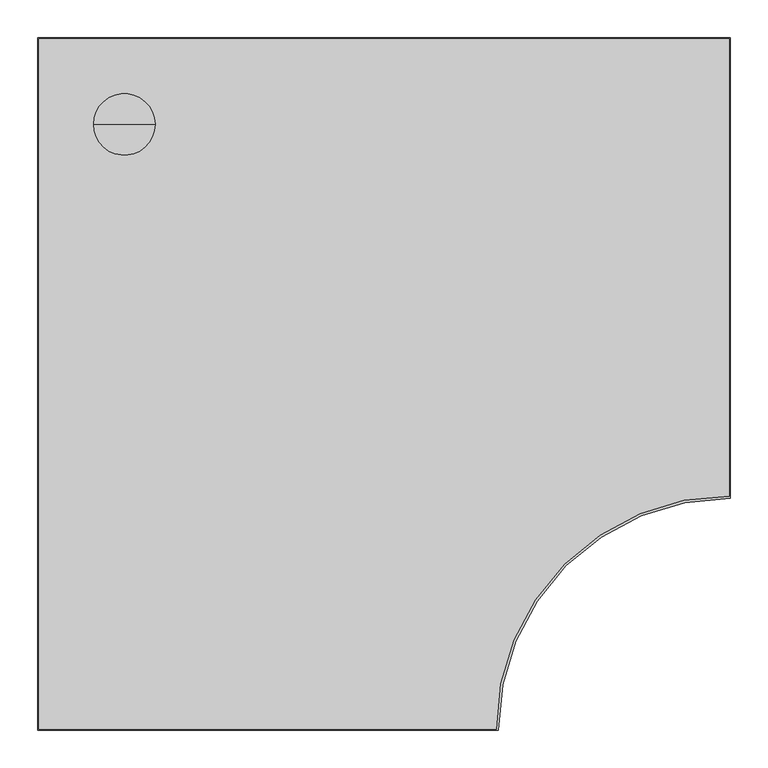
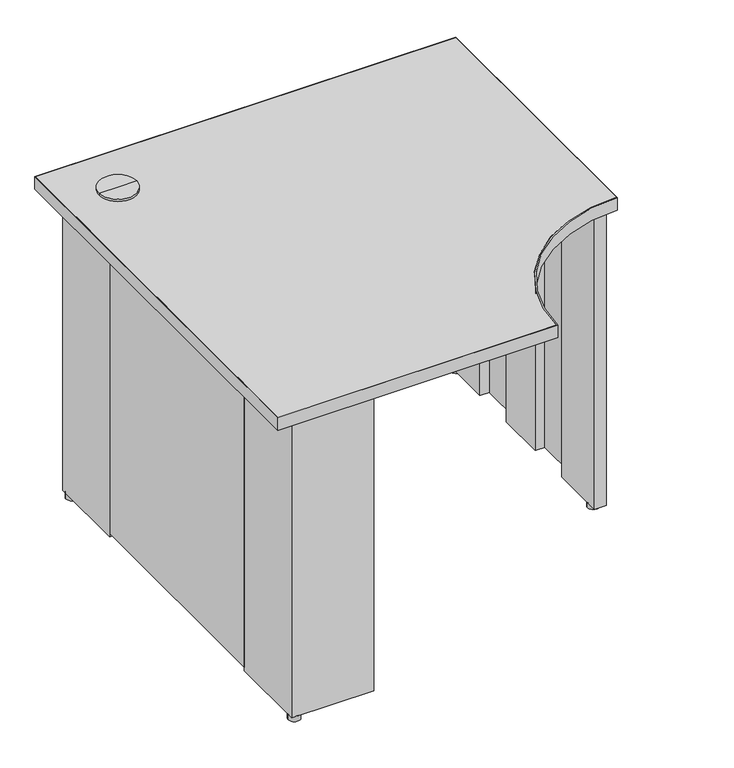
"""IFC4 building model written with IfcOpenShell, lengths in millimetres: furniture geometry, Steelcase - Kick Freestanding - Desk - Curve Corner - Full Height Modesty Panel : 24D x 36W - Right Full End Panel/Left Clear Access Support - LPL."""

from ifc_helpers import new_model, si_unit, point, frame, frame_2d, origin, origin_with_axes, place, context, project, spatial, polyline, circle_curve, trimmed, segment, composite_curve, outline, extrude, source, transform, mapped, element, save
from ifc_brep_helpers import plane_surface, cylinder_surface, advanced_brep


def furniture_b1ff314c(model_context):
    return source(origin(), model_context, "Body", "SolidModel", [
        extrude(outline(composite_curve([segment(trimmed(circle_curve(frame_2d((886.4853521, -565.8064761)), 12.7), [point((873.7853521, -565.8064761))], [point((899.1853521, -565.8064761))], False, "CARTESIAN"), True, "CONTINUOUS"), segment(trimmed(circle_curve(frame_2d((886.4853521, -565.8064761)), 12.7), [point((899.1853521, -565.8064761))], [point((873.7853521, -565.8064761))], False, "CARTESIAN"), True, "CONTINUOUS")], self_intersect=False)), origin_with_axes(), (0.0, 0.0, 1.0), 12.446),
        extrude(outline(polyline([(215.8999939, -63.5), (63.5, -63.5), (63.5, -215.8999939), (38.1, -215.8999939), (38.1, -38.1), (215.8999939, -38.1), (215.8999939, -63.5)])), frame((0.0, 0.0, 12.446), z_axis=(0.0, 0.0, 1.0), x_axis=(1.0, 0.0, 0.0)), (0.0, 0.0, 1.0), 682.498),
        extrude(outline(polyline([(721.6393822, -63.5), (721.6393822, -38.1), (899.4393579, -38.1), (899.4393579, -592.582), (873.5313463, -592.582), (873.5313463, -469.5444), (893.698945, -469.5444), (893.698945, -369.824), (873.5313463, -369.824), (873.5313463, -261.0866), (893.698945, -261.0866), (893.698945, -161.3662), (873.5313463, -161.3662), (873.5313463, -63.5), (721.6393822, -63.5)])), frame((0.0, 0.0, 12.446), z_axis=(0.0, 0.0, 1.0), x_axis=(1.0, 0.0, 0.0)), (0.0, 0.0, 1.0), 682.498),
        advanced_brep(
        [(114.3, -114.3, 728.98), (154.94, -114.3, 728.98), (73.66, -114.3, 728.98), (76.1699693, -114.3, 694.944), (152.4300307, -114.3, 694.944), (114.3, -114.3, 694.944), (76.1699693, -114.3, 723.9), (152.4300307, -114.3, 723.9), (73.66, -114.3, 723.9), (154.94, -114.3, 723.9)],
        [
            (0, 1),
            (1, 2, circle_curve(frame((114.3, -114.3, 728.98), z_axis=(0.0, 0.0, 1.0), x_axis=(1.0, 0.0, 0.0)), 40.64)),
            (2, 0),
            (2, 1, circle_curve(frame((114.3, -114.3, 728.98), z_axis=(0.0, 0.0, 1.0), x_axis=(1.0, 0.0, 0.0)), 40.64)),
            (3, 4, circle_curve(frame((114.3, -114.3, 694.944), z_axis=(0.0, 0.0, -1.0), x_axis=(1.0, 0.0, 0.0)), 38.1300307)),
            (4, 5),
            (5, 3),
            (4, 3, circle_curve(frame((114.3, -114.3, 694.944), z_axis=(0.0, 0.0, -1.0), x_axis=(1.0, 0.0, 0.0)), 38.1300307)),
            (6, 7, circle_curve(frame((114.3, -114.3, 723.9), z_axis=(0.0, 0.0, -1.0), x_axis=(1.0, 0.0, 0.0)), 38.1300307)),
            (7, 4),
            (3, 6),
            (7, 6, circle_curve(frame((114.3, -114.3, 723.9), z_axis=(0.0, 0.0, -1.0), x_axis=(1.0, 0.0, 0.0)), 38.1300307)),
            (8, 9, circle_curve(frame((114.3, -114.3, 723.9), z_axis=(0.0, 0.0, -1.0), x_axis=(1.0, 0.0, 0.0)), 40.64)),
            (9, 7),
            (6, 8),
            (9, 8, circle_curve(frame((114.3, -114.3, 723.9), z_axis=(0.0, 0.0, -1.0), x_axis=(1.0, 0.0, 0.0)), 40.64)),
            (1, 9),
            (8, 2),
        ],
        [
            plane_surface(frame((114.3, -114.3, 728.98), z_axis=(0.0, 0.0, 1.0), x_axis=(1.0, 0.0, 0.0))),
            plane_surface(frame((114.3, -114.3, 694.944), z_axis=(0.0, 0.0, -1.0), x_axis=(1.0, 0.0, 0.0))),
            cylinder_surface(frame((114.3, -114.3, 728.98), z_axis=(0.0, 0.0, 1.0), x_axis=(1.0, 0.0, 0.0)), 38.1300307),
            plane_surface(frame((114.3, -114.3, 723.9), z_axis=(0.0, 0.0, -1.0), x_axis=(1.0, 0.0, 0.0))),
            cylinder_surface(frame((114.3, -114.3, 728.98), z_axis=(0.0, 0.0, 1.0), x_axis=(1.0, 0.0, 0.0)), 40.64),
        ],
        [
            (0, [[1, 2, 3]]),
            (0, [[-3, 4, -1]]),
            (1, [[5, 6, 7]]),
            (1, [[8, -7, -6]]),
            (2, [[9, 10, -5, 11]]),
            (2, [[12, -11, -8, -10]]),
            (3, [[13, 14, -9, 15]]),
            (3, [[16, -15, -12, -14]]),
            (4, [[-2, 17, -13, 18]]),
            (4, [[-4, -18, -16, -17]]),
        ],
    ),
        extrude(outline(composite_curve([segment(trimmed(circle_curve(frame_2d((50.8, -50.8)), 12.7), [point((38.1, -50.8))], [point((63.5, -50.8))], False, "CARTESIAN"), True, "CONTINUOUS"), segment(trimmed(circle_curve(frame_2d((50.8, -50.8)), 12.7), [point((63.5, -50.8))], [point((38.1, -50.8))], False, "CARTESIAN"), True, "CONTINUOUS")], self_intersect=False)), origin_with_axes(), (0.0, 0.0, 1.0), 12.446),
        extrude(outline(composite_curve([segment(trimmed(circle_curve(frame_2d((50.8, -887.7300073)), 12.7484998), [point((38.0515002, -887.7300073))], [point((63.5484998, -887.7300073))], False, "CARTESIAN"), True, "CONTINUOUS"), segment(trimmed(circle_curve(frame_2d((50.8, -887.7300073)), 12.7484998), [point((63.5484998, -887.7300073))], [point((38.0515002, -887.7300073))], False, "CARTESIAN"), True, "CONTINUOUS")], self_intersect=False)), origin_with_axes(), (0.0, 0.0, 1.0), 12.446),
        extrude(outline(composite_curve([segment(trimmed(circle_curve(frame_2d((886.4853521, -50.8)), 12.7), [point((873.7853521, -50.8))], [point((899.1853521, -50.8))], False, "CARTESIAN"), True, "CONTINUOUS"), segment(trimmed(circle_curve(frame_2d((886.4853521, -50.8)), 12.7), [point((899.1853521, -50.8))], [point((873.7853521, -50.8))], False, "CARTESIAN"), True, "CONTINUOUS")], self_intersect=False)), origin_with_axes(), (0.0, 0.0, 1.0), 12.446),
        extrude(outline(polyline([(63.5, -215.8999939), (63.5, -722.6300194), (38.1, -722.6300194), (38.1, -215.8999939), (63.5, -215.8999939)])), frame((0.0, 0.0, 20.828), z_axis=(0.0, 0.0, 1.0), x_axis=(1.0, 0.0, 0.0)), (0.0, 0.0, 1.0), 674.116),
        extrude(outline(polyline([(721.6393822, -38.1), (721.6393822, -63.5), (215.8999939, -63.5), (215.8999939, -38.1), (721.6393822, -38.1)])), frame((0.0, 0.0, 20.828), z_axis=(0.0, 0.0, 1.0), x_axis=(1.0, 0.0, 0.0)), (0.0, 0.0, 1.0), 674.116),
        extrude(outline(polyline([(215.8999939, -875.0300194), (215.8999939, -900.4299952), (38.1, -900.4299952), (38.1, -722.6300194), (63.5, -722.6300194), (63.5, -875.0300194), (215.8999939, -875.0300194)])), frame((0.0, 0.0, 12.446), z_axis=(0.0, 0.0, 1.0), x_axis=(1.0, 0.0, 0.0)), (0.0, 0.0, 1.0), 682.498),
        extrude(outline(composite_curve([segment(polyline([(0.9906, -913.4093628), (0.9906, -0.9906), (913.4093628, -0.9906), (913.4093628, -605.3354109)]), True, "CONTINUOUS"), segment(trimmed(circle_curve(frame_2d((912.1393458, -912.1393458)), 306.8065636), [point((913.4093628, -605.3354109))], [point((605.3354109, -913.4093628))], True, "CARTESIAN"), True, "CONTINUOUS"), segment(polyline([(605.3354109, -913.4093628), (0.9906, -913.4093628)]), True, "CONTINUOUS")], self_intersect=False)), frame((0.0, 0.0, 694.944), z_axis=(0.0, 0.0, 1.0), x_axis=(1.0, 0.0, 0.0)), (0.0, 0.0, 1.0), 28.956),
        extrude(outline(composite_curve([segment(polyline([(914.4, 0.0), (914.4, -608.332629)]), True, "CONTINUOUS"), segment(trimmed(circle_curve(frame_2d((913.129983, -913.129983)), 304.8), [point((914.4, -608.332629))], [point((608.332629, -914.4))], True, "CARTESIAN"), True, "CONTINUOUS"), segment(polyline([(608.332629, -914.4), (0.0, -914.4), (0.0, 0.0), (914.4, 0.0)]), True, "CONTINUOUS")], self_intersect=False), holes=[composite_curve([segment(polyline([(913.4093628, -0.9906), (0.9906, -0.9906), (0.9906, -913.4093628), (605.3354109, -913.4093628)]), True, "CONTINUOUS"), segment(trimmed(circle_curve(frame_2d((912.1393458, -912.1393458)), 306.8065636), [point((605.3354109, -913.4093628))], [point((913.4093628, -605.3354109))], False, "CARTESIAN"), True, "CONTINUOUS"), segment(polyline([(913.4093628, -605.3354109), (913.4093628, -0.9906)]), True, "CONTINUOUS")], self_intersect=False)]), frame((0.0, 0.0, 694.944), z_axis=(0.0, 0.0, 1.0), x_axis=(1.0, 0.0, 0.0)), (0.0, 0.0, 1.0), 28.956),
    ])


if __name__ == "__main__":
    model = new_model("IFC4")
    model_context = context("Model", 3, world=origin())
    ifc_project = project(units=[si_unit("LENGTHUNIT", "METRE", prefix="MILLI")], contexts=[model_context])
    site = spatial("IfcSite", under=ifc_project)
    building = spatial("IfcBuilding", under=site)
    placement = place(None, origin())
    furniture_shape = furniture_b1ff314c(model_context)
    element("IfcFurniture", 1, ObjectType="Steelcase - Kick Freestanding - Desk - Curve Corner - Full Height Modesty Panel : 24D x 36W - Right Full End Panel/Left Clear Access Support - LPL", at=placement, inside=building, context=model_context, shape_type="MappedRepresentation", body=[
        mapped(furniture_shape, transform((0.0, 0.0, 0.0), x_axis=(1.0, 0.0, 0.0), y_axis=(0.0, 1.0, 0.0), z_axis=(0.0, 0.0, 1.0))),
    ])
    save(model, "model.ifc")
